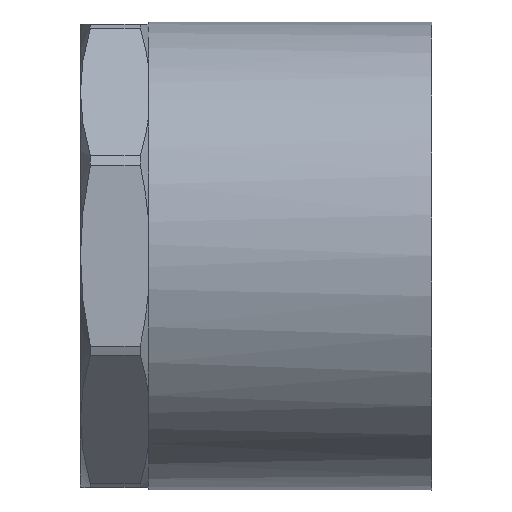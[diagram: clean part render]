
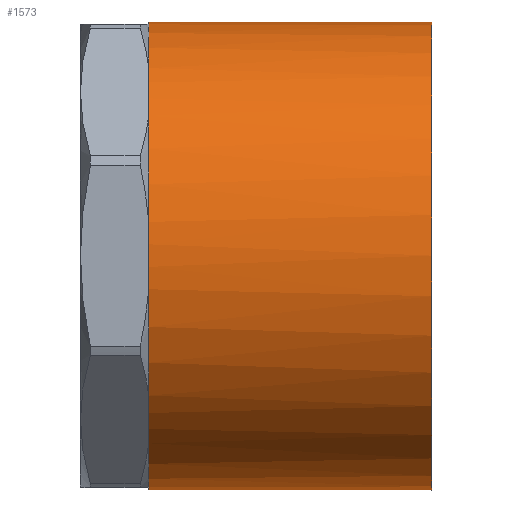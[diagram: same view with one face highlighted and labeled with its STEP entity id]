
A CAD part, top view. The second image highlights one B-rep face of the part: STEP entity #1573.
In plain terms, the highlighted cylindrical face has radius 48 mm (diameter 96 mm), a full revolution.
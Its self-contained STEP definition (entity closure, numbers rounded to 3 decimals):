
#73=CARTESIAN_POINT('',(14.,-28.701,38.474));
#74=VERTEX_POINT('',#73);
#75=CARTESIAN_POINT('',(14.,-38.474,28.701));
#76=VERTEX_POINT('',#75);
#77=CARTESIAN_POINT('',(14.,0.,0.0));
#78=DIRECTION('',(1.0,0.0,0.0));
#79=DIRECTION('',(0.0,1.0,0.0));
#80=AXIS2_PLACEMENT_3D('',#77,#78,#79);
#81=CIRCLE('',#80,48.);
#82=EDGE_CURVE('',#74,#76,#81,.T.);
#98=CARTESIAN_POINT('',(14.0,-47.5,6.91));
#99=VERTEX_POINT('',#98);
#100=CARTESIAN_POINT('',(14.0,-47.5,-6.91));
#101=VERTEX_POINT('',#100);
#102=CARTESIAN_POINT('',(14.,0.,0.0));
#103=DIRECTION('',(1.0,0.0,0.0));
#104=DIRECTION('',(0.0,1.0,0.0));
#105=AXIS2_PLACEMENT_3D('',#102,#103,#104);
#106=CIRCLE('',#105,48.);
#107=EDGE_CURVE('',#99,#101,#106,.T.);
#123=CARTESIAN_POINT('',(14.,-38.474,-28.701));
#124=VERTEX_POINT('',#123);
#125=CARTESIAN_POINT('',(14.,-28.701,-38.474));
#126=VERTEX_POINT('',#125);
#127=CARTESIAN_POINT('',(14.,0.,0.0));
#128=DIRECTION('',(1.0,0.0,0.0));
#129=DIRECTION('',(0.0,1.0,0.0));
#130=AXIS2_PLACEMENT_3D('',#127,#128,#129);
#131=CIRCLE('',#130,48.);
#132=EDGE_CURVE('',#124,#126,#131,.T.);
#148=CARTESIAN_POINT('',(14.0,-6.91,-47.5));
#149=VERTEX_POINT('',#148);
#150=CARTESIAN_POINT('',(14.,6.91,-47.5));
#151=VERTEX_POINT('',#150);
#152=CARTESIAN_POINT('',(14.,0.,0.0));
#153=DIRECTION('',(1.0,0.0,0.0));
#154=DIRECTION('',(0.0,1.0,0.0));
#155=AXIS2_PLACEMENT_3D('',#152,#153,#154);
#156=CIRCLE('',#155,48.);
#157=EDGE_CURVE('',#149,#151,#156,.T.);
#173=CARTESIAN_POINT('',(14.,28.701,-38.474));
#174=VERTEX_POINT('',#173);
#175=CARTESIAN_POINT('',(14.0,38.474,-28.701));
#176=VERTEX_POINT('',#175);
#177=CARTESIAN_POINT('',(14.,0.,0.0));
#178=DIRECTION('',(1.0,0.0,0.0));
#179=DIRECTION('',(0.0,1.0,0.0));
#180=AXIS2_PLACEMENT_3D('',#177,#178,#179);
#181=CIRCLE('',#180,48.);
#182=EDGE_CURVE('',#174,#176,#181,.T.);
#198=CARTESIAN_POINT('',(14.,47.5,-6.91));
#199=VERTEX_POINT('',#198);
#200=CARTESIAN_POINT('',(14.,47.5,6.91));
#201=VERTEX_POINT('',#200);
#202=CARTESIAN_POINT('',(14.,0.,0.0));
#203=DIRECTION('',(1.0,0.0,0.0));
#204=DIRECTION('',(0.0,1.0,0.0));
#205=AXIS2_PLACEMENT_3D('',#202,#203,#204);
#206=CIRCLE('',#205,48.);
#207=EDGE_CURVE('',#199,#201,#206,.T.);
#223=CARTESIAN_POINT('',(14.0,38.474,28.701));
#224=VERTEX_POINT('',#223);
#225=CARTESIAN_POINT('',(14.,28.701,38.474));
#226=VERTEX_POINT('',#225);
#227=CARTESIAN_POINT('',(14.,0.,0.0));
#228=DIRECTION('',(1.0,0.0,0.0));
#229=DIRECTION('',(0.0,1.0,0.0));
#230=AXIS2_PLACEMENT_3D('',#227,#228,#229);
#231=CIRCLE('',#230,48.);
#232=EDGE_CURVE('',#224,#226,#231,.T.);
#839=CARTESIAN_POINT('',(14.0,6.91,47.5));
#840=VERTEX_POINT('',#839);
#854=CARTESIAN_POINT('',(14.,0.,0.0));
#855=DIRECTION('',(1.0,0.0,0.0));
#856=DIRECTION('',(0.0,1.0,0.0));
#857=AXIS2_PLACEMENT_3D('',#854,#855,#856);
#858=CIRCLE('',#857,48.);
#859=EDGE_CURVE('',#226,#840,#858,.T.);
#878=CARTESIAN_POINT('',(14.,0.,0.0));
#879=DIRECTION('',(1.0,0.0,0.0));
#880=DIRECTION('',(0.0,1.0,0.0));
#881=AXIS2_PLACEMENT_3D('',#878,#879,#880);
#882=CIRCLE('',#881,48.);
#883=EDGE_CURVE('',#76,#99,#882,.T.);
#894=CARTESIAN_POINT('',(14.,0.,0.0));
#895=DIRECTION('',(1.0,0.0,0.0));
#896=DIRECTION('',(0.0,1.0,0.0));
#897=AXIS2_PLACEMENT_3D('',#894,#895,#896);
#898=CIRCLE('',#897,48.);
#899=EDGE_CURVE('',#101,#124,#898,.T.);
#918=CARTESIAN_POINT('',(14.,0.,0.0));
#919=DIRECTION('',(1.0,0.0,0.0));
#920=DIRECTION('',(0.0,1.0,0.0));
#921=AXIS2_PLACEMENT_3D('',#918,#919,#920);
#922=CIRCLE('',#921,48.);
#923=EDGE_CURVE('',#126,#149,#922,.T.);
#942=CARTESIAN_POINT('',(14.,0.,0.0));
#943=DIRECTION('',(1.0,0.0,0.0));
#944=DIRECTION('',(0.0,1.0,0.0));
#945=AXIS2_PLACEMENT_3D('',#942,#943,#944);
#946=CIRCLE('',#945,48.);
#947=EDGE_CURVE('',#151,#174,#946,.T.);
#966=CARTESIAN_POINT('',(14.,0.,0.0));
#967=DIRECTION('',(1.0,0.0,0.0));
#968=DIRECTION('',(0.0,1.0,0.0));
#969=AXIS2_PLACEMENT_3D('',#966,#967,#968);
#970=CIRCLE('',#969,48.);
#971=EDGE_CURVE('',#176,#199,#970,.T.);
#990=CARTESIAN_POINT('',(14.,-6.91,47.5));
#991=VERTEX_POINT('',#990);
#992=CARTESIAN_POINT('',(14.,0.,0.0));
#993=DIRECTION('',(1.0,0.0,0.0));
#994=DIRECTION('',(0.0,1.0,0.0));
#995=AXIS2_PLACEMENT_3D('',#992,#993,#994);
#996=CIRCLE('',#995,48.);
#997=EDGE_CURVE('',#991,#74,#996,.T.);
#1321=CARTESIAN_POINT('',(14.,0.,0.0));
#1322=DIRECTION('',(1.0,0.0,0.0));
#1323=DIRECTION('',(0.0,1.0,0.0));
#1324=AXIS2_PLACEMENT_3D('',#1321,#1322,#1323);
#1325=CIRCLE('',#1324,48.);
#1326=EDGE_CURVE('',#840,#991,#1325,.T.);
#1527=CARTESIAN_POINT('',(14.,0.,0.0));
#1528=DIRECTION('',(1.0,0.0,0.0));
#1529=DIRECTION('',(0.0,1.0,0.0));
#1530=AXIS2_PLACEMENT_3D('',#1527,#1528,#1529);
#1531=CIRCLE('',#1530,48.);
#1532=EDGE_CURVE('',#201,#224,#1531,.T.);
#1539=CARTESIAN_POINT('',(43.,0.,0.0));
#1540=DIRECTION('',(1.0,0.,0.0));
#1541=DIRECTION('',(0.0,1.0,0.0));
#1542=AXIS2_PLACEMENT_3D('',#1539,#1540,#1541);
#1543=CYLINDRICAL_SURFACE('',#1542,48.0);
#1544=CARTESIAN_POINT('',(72.0,48.,0.0));
#1545=VERTEX_POINT('',#1544);
#1546=CARTESIAN_POINT('',(72.0,0.,0.0));
#1547=DIRECTION('',(1.0,0.0,0.0));
#1548=DIRECTION('',(0.0,1.0,0.0));
#1549=AXIS2_PLACEMENT_3D('',#1546,#1547,#1548);
#1550=CIRCLE('',#1549,48.0);
#1551=EDGE_CURVE('',#1545,#1545,#1550,.T.);
#1552=ORIENTED_EDGE('',*,*,#1551,.F.);
#1553=EDGE_LOOP('',(#1552));
#1554=FACE_OUTER_BOUND('',#1553,.T.);
#1555=ORIENTED_EDGE('',*,*,#997,.T.);
#1556=ORIENTED_EDGE('',*,*,#82,.T.);
#1557=ORIENTED_EDGE('',*,*,#883,.T.);
#1558=ORIENTED_EDGE('',*,*,#107,.T.);
#1559=ORIENTED_EDGE('',*,*,#899,.T.);
#1560=ORIENTED_EDGE('',*,*,#132,.T.);
#1561=ORIENTED_EDGE('',*,*,#923,.T.);
#1562=ORIENTED_EDGE('',*,*,#157,.T.);
#1563=ORIENTED_EDGE('',*,*,#947,.T.);
#1564=ORIENTED_EDGE('',*,*,#182,.T.);
#1565=ORIENTED_EDGE('',*,*,#971,.T.);
#1566=ORIENTED_EDGE('',*,*,#207,.T.);
#1567=ORIENTED_EDGE('',*,*,#1532,.T.);
#1568=ORIENTED_EDGE('',*,*,#232,.T.);
#1569=ORIENTED_EDGE('',*,*,#859,.T.);
#1570=ORIENTED_EDGE('',*,*,#1326,.T.);
#1571=EDGE_LOOP('',(#1555,#1556,#1557,#1558,#1559,#1560,#1561,#1562,#1563,#1564,#1565,#1566,#1567,#1568,#1569,#1570));
#1572=FACE_BOUND('',#1571,.T.);
#1573=ADVANCED_FACE('',(#1554,#1572),#1543,.T.);
